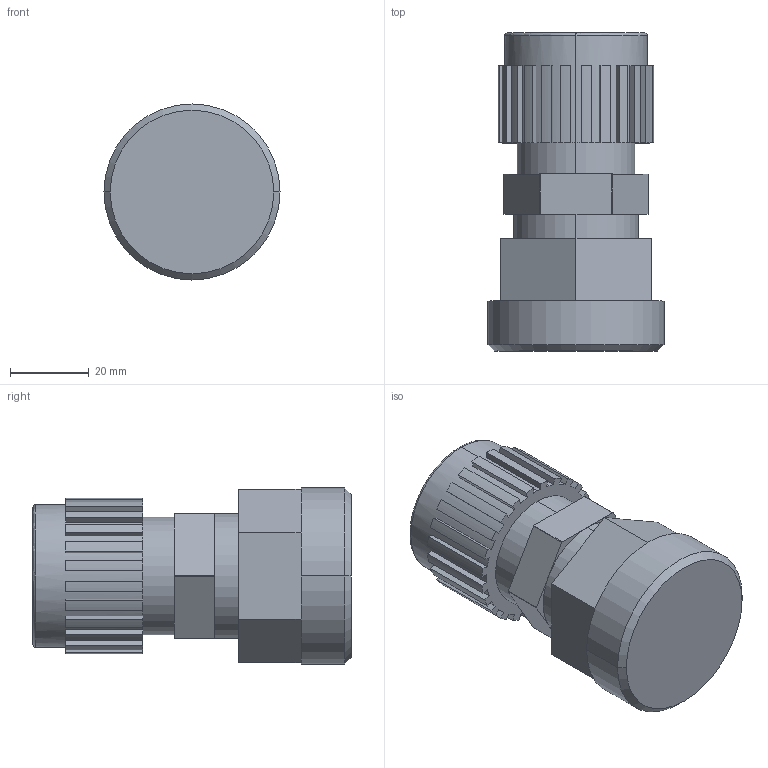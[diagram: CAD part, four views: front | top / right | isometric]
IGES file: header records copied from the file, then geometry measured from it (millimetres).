
Start section: SolidWorks IGES file using analytic representation for surfaces
Global section: file name: S:\Product Visuals\REVISED-60L-TOP-MOUNT-FITTINGS\IGS\pillar-s-300\08-pillar-s-300-with-top-mount-adapter.IGS; native system: SolidWorks 2012; preprocessor: SolidWorks 2012; author: rachel.dressel; date: 121127.121901; units: inch
Bounding box: 44.7 x 80.78 x 44.7 mm (x, y, z)
Volume: 87497.7 mm3; surface area: 15769.2 mm2
Topology: 1 solids, 1 shells, 143 faces, 396 edges, 260 vertices
Faces by surface type: plane 97, revolution 42, bspline 4
